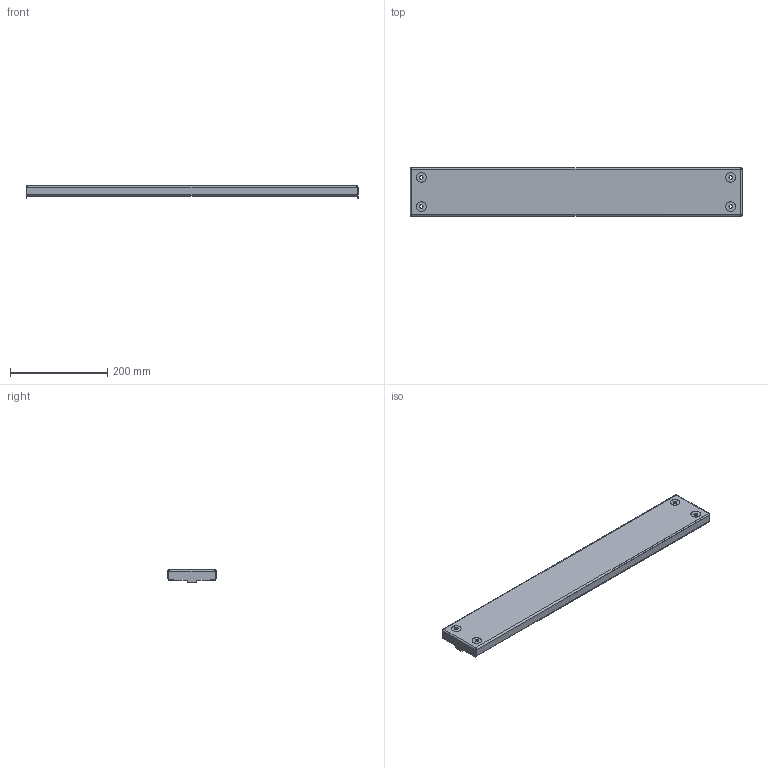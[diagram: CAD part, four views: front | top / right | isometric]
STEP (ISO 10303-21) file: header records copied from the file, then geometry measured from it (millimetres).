
FILE_DESCRIPTION(('STEP AP203'), '1');
FILE_NAME('Ïàíåëü öîêîëÿ Â=100 Ø=800 ìì RAL7022 OptiBox M (2 øò) 419693 ÊÝÀÇ', '', ('UNSPECIFIED'), ('UNSPECIFIED'), 'C3D Converter', 'C3D Toolkit', '');
FILE_SCHEMA(('CONFIG_CONTROL_DESIGN'));
Length unit declared in the file: millimetre
Bounding box: 681.3 x 99 x 26.5 mm (x, y, z)
Volume: 152227.2 mm3; surface area: 221663.7 mm2
Topology: 1 solids, 1 shells, 126 faces, 312 edges, 192 vertices
Faces by surface type: cylinder 72, plane 46, bspline 8
Full cylindrical faces by diameter (mm): 4.6 x52, 7.3 x4, 20 x4
Entity records: 4848 total; most frequent: CARTESIAN_POINT 1799, DIRECTION 598, ORIENTED_EDGE 504, EDGE_LOOP 302, EDGE_CURVE 252, AXIS2_PLACEMENT_3D 247, VERTEX_POINT 192, FACE_BOUND 182
